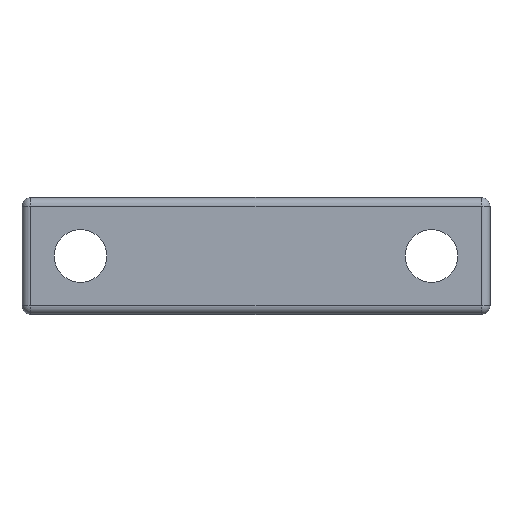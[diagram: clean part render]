
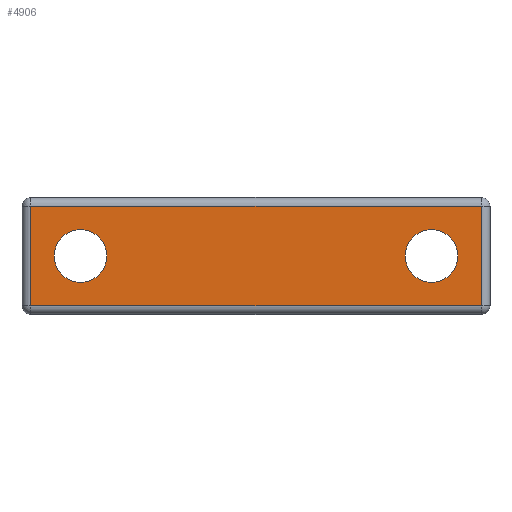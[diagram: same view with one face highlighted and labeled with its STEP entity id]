
A CAD part, front view. The second image highlights one B-rep face of the part: STEP entity #4906.
In plain terms, the highlighted planar face has unit normal (0, -1, 0).
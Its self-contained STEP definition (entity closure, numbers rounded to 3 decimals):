
#89 = VERTEX_POINT ( 'NONE', #7952 ) ;
#382 = EDGE_CURVE ( 'NONE', #1093, #6668, #9395, .T. ) ;
#762 = VECTOR ( 'NONE', #11146, 1000. ) ;
#807 = PLANE ( 'NONE',  #4210 ) ;
#901 = ORIENTED_EDGE ( 'NONE', *, *, #11503, .T. ) ;
#997 = LINE ( 'NONE', #5485, #5685 ) ;
#1093 = VERTEX_POINT ( 'NONE', #7226 ) ;
#1534 = CIRCLE ( 'NONE', #3336, 4.5 ) ;
#1544 = ORIENTED_EDGE ( 'NONE', *, *, #8766, .T. ) ;
#1584 = CARTESIAN_POINT ( 'NONE',  ( 30., 0., -5.5 ) ) ;
#1631 = EDGE_CURVE ( 'NONE', #2749, #8604, #3248, .T. ) ;
#1684 = FACE_OUTER_BOUND ( 'NONE', #9325, .T. ) ;
#1952 = CARTESIAN_POINT ( 'NONE',  ( 38.5, 0., -18.5 ) ) ;
#1974 = CARTESIAN_POINT ( 'NONE',  ( -40., 0., -1.5 ) ) ;
#2623 = AXIS2_PLACEMENT_3D ( 'NONE', #4646, #9269, #8333 ) ;
#2698 = DIRECTION ( 'NONE',  ( 0., 0., -1. ) ) ;
#2749 = VERTEX_POINT ( 'NONE', #9811 ) ;
#3248 = LINE ( 'NONE', #3771, #762 ) ;
#3336 = AXIS2_PLACEMENT_3D ( 'NONE', #5102, #11610, #6049 ) ;
#3433 = ORIENTED_EDGE ( 'NONE', *, *, #9128, .T. ) ;
#3500 = DIRECTION ( 'NONE',  ( 0., 0., 1. ) ) ;
#3629 = DIRECTION ( 'NONE',  ( 0., 0., -1. ) ) ;
#3681 = DIRECTION ( 'NONE',  ( 0., 1., 0. ) ) ;
#3771 = CARTESIAN_POINT ( 'NONE',  ( 40., 0., -18.5 ) ) ;
#3841 = DIRECTION ( 'NONE',  ( -1., 0., 0. ) ) ;
#3883 = EDGE_CURVE ( 'NONE', #7879, #6718, #7678, .T. ) ;
#3954 = LINE ( 'NONE', #9076, #8607 ) ;
#4171 = FACE_BOUND ( 'NONE', #8460, .T. ) ;
#4210 = AXIS2_PLACEMENT_3D ( 'NONE', #9155, #8263, #2698 ) ;
#4291 = CARTESIAN_POINT ( 'NONE',  ( 38.5, 0., -1.5 ) ) ;
#4612 = CARTESIAN_POINT ( 'NONE',  ( -30., 0., -5.5 ) ) ;
#4646 = CARTESIAN_POINT ( 'NONE',  ( 30., 0., -10. ) ) ;
#4761 = CARTESIAN_POINT ( 'NONE',  ( 30., 0., -10. ) ) ;
#4906 = ADVANCED_FACE ( 'NONE', ( #1684, #4171, #9101 ), #807, .T. ) ;
#5102 = CARTESIAN_POINT ( 'NONE',  ( -30., 0., -10. ) ) ;
#5292 = EDGE_CURVE ( 'NONE', #89, #11044, #1534, .T. ) ;
#5474 = AXIS2_PLACEMENT_3D ( 'NONE', #9258, #3681, #10207 ) ;
#5485 = CARTESIAN_POINT ( 'NONE',  ( -38.5, 0., -20. ) ) ;
#5513 = ORIENTED_EDGE ( 'NONE', *, *, #382, .T. ) ;
#5685 = VECTOR ( 'NONE', #3629, 1000. ) ;
#5699 = DIRECTION ( 'NONE',  ( 0., 0., 1. ) ) ;
#5726 = AXIS2_PLACEMENT_3D ( 'NONE', #4761, #11252, #5699 ) ;
#6013 = ORIENTED_EDGE ( 'NONE', *, *, #3883, .T. ) ;
#6049 = DIRECTION ( 'NONE',  ( 0., 0., 1. ) ) ;
#6119 = ORIENTED_EDGE ( 'NONE', *, *, #11962, .T. ) ;
#6336 = CARTESIAN_POINT ( 'NONE',  ( -38.5, 0., -1.5 ) ) ;
#6620 = EDGE_LOOP ( 'NONE', ( #901, #5513 ) ) ;
#6668 = VERTEX_POINT ( 'NONE', #1584 ) ;
#6718 = VERTEX_POINT ( 'NONE', #6336 ) ;
#7226 = CARTESIAN_POINT ( 'NONE',  ( 30., 0., -14.5 ) ) ;
#7678 = LINE ( 'NONE', #1974, #9861 ) ;
#7879 = VERTEX_POINT ( 'NONE', #4291 ) ;
#7952 = CARTESIAN_POINT ( 'NONE',  ( -30., 0., -14.5 ) ) ;
#8263 = DIRECTION ( 'NONE',  ( 0., -1., 0. ) ) ;
#8333 = DIRECTION ( 'NONE',  ( 0., 0., 1. ) ) ;
#8454 = ORIENTED_EDGE ( 'NONE', *, *, #5292, .T. ) ;
#8460 = EDGE_LOOP ( 'NONE', ( #1544, #8454 ) ) ;
#8604 = VERTEX_POINT ( 'NONE', #1952 ) ;
#8607 = VECTOR ( 'NONE', #3500, 1000. ) ;
#8752 = CIRCLE ( 'NONE', #5474, 4.5 ) ;
#8766 = EDGE_CURVE ( 'NONE', #11044, #89, #8752, .T. ) ;
#9076 = CARTESIAN_POINT ( 'NONE',  ( 38.5, 0., -20. ) ) ;
#9101 = FACE_BOUND ( 'NONE', #6620, .T. ) ;
#9128 = EDGE_CURVE ( 'NONE', #8604, #7879, #3954, .T. ) ;
#9155 = CARTESIAN_POINT ( 'NONE',  ( -40., 0., -20. ) ) ;
#9258 = CARTESIAN_POINT ( 'NONE',  ( -30., 0., -10. ) ) ;
#9269 = DIRECTION ( 'NONE',  ( 0., 1., 0. ) ) ;
#9325 = EDGE_LOOP ( 'NONE', ( #6119, #11849, #3433, #6013 ) ) ;
#9395 = CIRCLE ( 'NONE', #2623, 4.5 ) ;
#9756 = CIRCLE ( 'NONE', #5726, 4.5 ) ;
#9811 = CARTESIAN_POINT ( 'NONE',  ( -38.5, 0., -18.5 ) ) ;
#9861 = VECTOR ( 'NONE', #3841, 1000. ) ;
#10207 = DIRECTION ( 'NONE',  ( 0., 0., 1. ) ) ;
#11044 = VERTEX_POINT ( 'NONE', #4612 ) ;
#11146 = DIRECTION ( 'NONE',  ( 1., 0., 0. ) ) ;
#11252 = DIRECTION ( 'NONE',  ( 0., 1., 0. ) ) ;
#11503 = EDGE_CURVE ( 'NONE', #6668, #1093, #9756, .T. ) ;
#11610 = DIRECTION ( 'NONE',  ( 0., 1., 0. ) ) ;
#11849 = ORIENTED_EDGE ( 'NONE', *, *, #1631, .T. ) ;
#11962 = EDGE_CURVE ( 'NONE', #6718, #2749, #997, .T. ) ;
